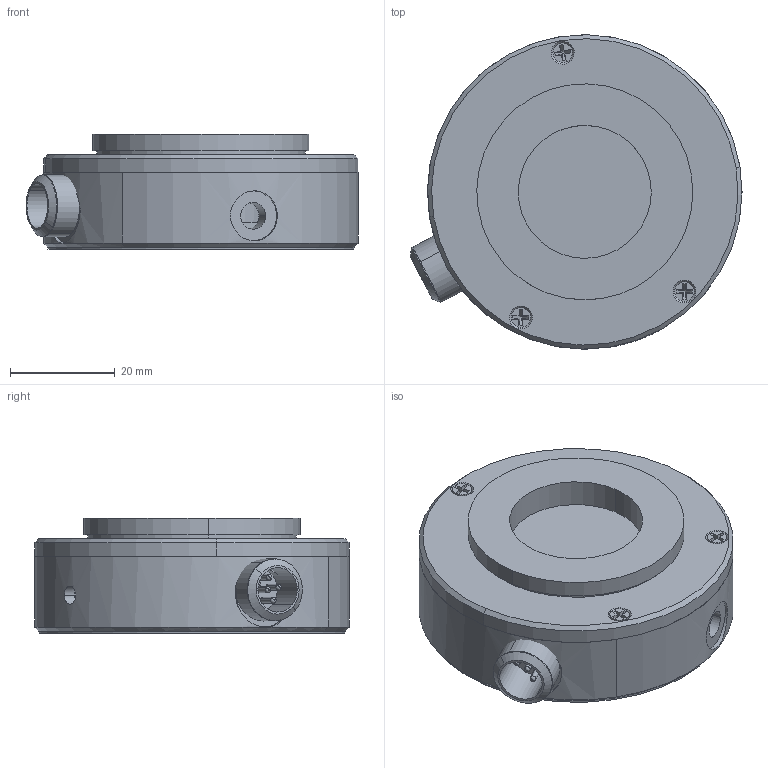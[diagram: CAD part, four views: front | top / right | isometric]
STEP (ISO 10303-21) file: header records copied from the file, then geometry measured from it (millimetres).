
FILE_DESCRIPTION (( 'STEP AP214' ), '1' );
FILE_NAME ('BDS25Cased.STEP', '2020-06-17T12:05:25', ( '' ), ( '' ), 'SwSTEP 2.0', 'SolidWorks 2019', '' );
FILE_SCHEMA (( 'AUTOMOTIVE_DESIGN' ));
Length unit declared in the file: inch
Products named in the file (10): Cs25cover; csBlade_dumb; BDS25Case; 2-56 P-S  F. H. screw_P-L .250; Cs25namepl; BDS25Cased; Spacer-Cs25; 0-80 P-S  F. H. screw_P-L .188; 2-56 P-S  F. H. screw_P-L .625; 5-pinM-Cs25_Male
Assembly tree (12 placements, depth 2):
  BDS25Cased
    BDS25Case
    Cs25cover
    5-pinM-Cs25_Male
    Spacer-Cs25
    0-80 P-S  F. H. screw_P-L .188  x3
    2-56 P-S  F. H. screw_P-L .250  x2
    2-56 P-S  F. H. screw_P-L .625
    Cs25namepl
    csBlade_dumb
Bounding box: 63.43 x 60.07 x 22.15 mm (x, y, z)
Volume: 18450.6 mm3; surface area: 28474.7 mm2
Topology: 12 solids, 12 shells, 1601 faces, 4128 edges, 2636 vertices
Faces by surface type: plane 593, cylinder 420, cone 419, bspline 159, torus 10
Entity records: 61778 total; most frequent: CARTESIAN_POINT 18219, ORIENTED_EDGE 6816, DIRECTION 6458, EDGE_CURVE 3408, AXIS2_PLACEMENT_3D 2223, VERTEX_POINT 2202, LINE 2012, VECTOR 2012
